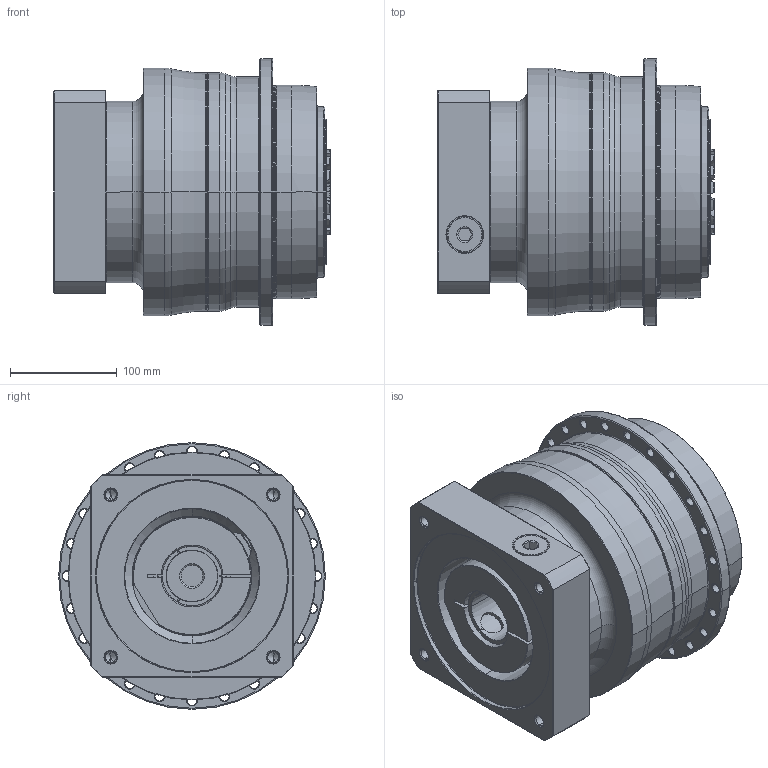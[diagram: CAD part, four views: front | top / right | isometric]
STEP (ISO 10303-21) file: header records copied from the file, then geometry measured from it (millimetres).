
FILE_DESCRIPTION((''),'2;1');
FILE_NAME('APC200_2ST_48-P0409B10201_ASM','2018-06-29T',('d01226'),(''),'PRO/ENGINEER BY PARAMETRIC TECHNOLOGY CORPORATION, 2008410','PRO/ENGINEER BY PARAMETRIC TECHNOLOGY CORPORATION, 2008410','');
FILE_SCHEMA(('CONFIG_CONTROL_DESIGN'));
Length unit declared in the file: millimetre
Products named in the file (9): P0278601003; P0359660103; P1317610601; P0503B00016; P0912556001; P1211600001; P0409B10201; 21711426021; APC200_2ST_48-P0409B10201_ASM
Assembly tree (8 placements, depth 2):
  APC200_2ST_48-P0409B10201_ASM
    P0278601003
    P0359660103
    P1317610601
    P0503B00016
    P0912556001
    P1211600001
    P0409B10201
    21711426021
Bounding box: 259.1 x 249.5 x 249.5 mm (x, y, z)
Volume: 7887511.9 mm3; surface area: 660126.6 mm2
Topology: 9 solids, 19 shells, 669 faces, 1611 edges, 981 vertices
Faces by surface type: cone 220, cylinder 213, plane 120, torus 102, bspline 14
Entity records: 25043 total; most frequent: CARTESIAN_POINT 9018, DIRECTION 3587, ORIENTED_EDGE 3144, EDGE_CURVE 1593, AXIS2_PLACEMENT_3D 1556, VERTEX_POINT 981, CIRCLE 874, EDGE_LOOP 772
